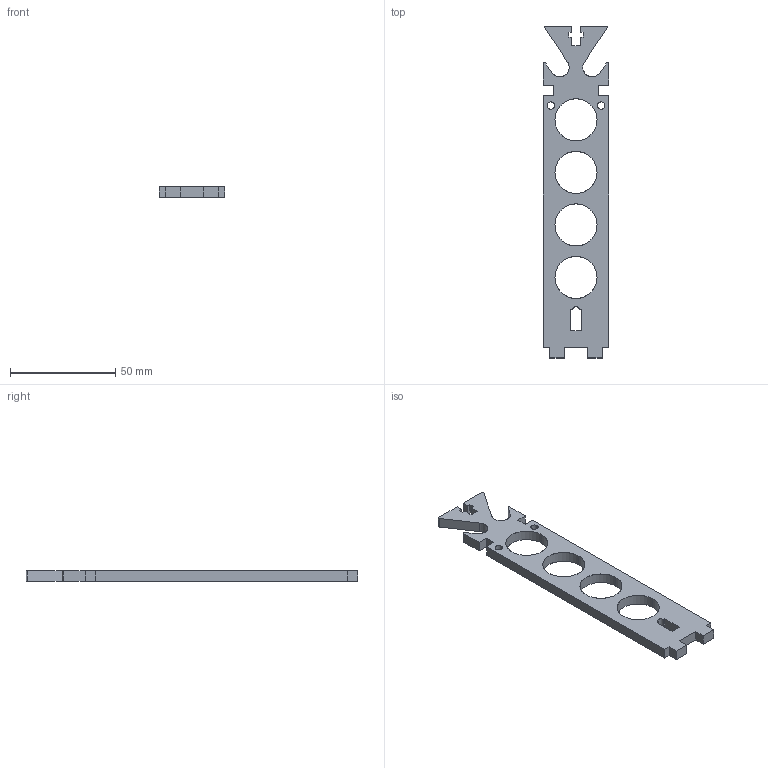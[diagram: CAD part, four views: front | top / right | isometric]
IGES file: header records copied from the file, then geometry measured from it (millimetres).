
Start section: SolidWorks IGES file using analytic representation for surfaces
Global section: file name: C:\Users\fablab-info\Desktop\Miroir cylindro-parabolique\IGS 3D\Piece support TUBE.IGS; native system: SolidWorks 2017; preprocessor: SolidWorks 2017; author: fablab-info; date: 190712.155342; units: millimetre
Bounding box: 31 x 158 x 5 mm (x, y, z)
Surface area: 10060.8 mm2 (no closed solid volume)
Topology: 0 solids, 0 shells, 63 faces, 878 edges, 878 vertices
Faces by surface type: bspline 43, revolution 20
